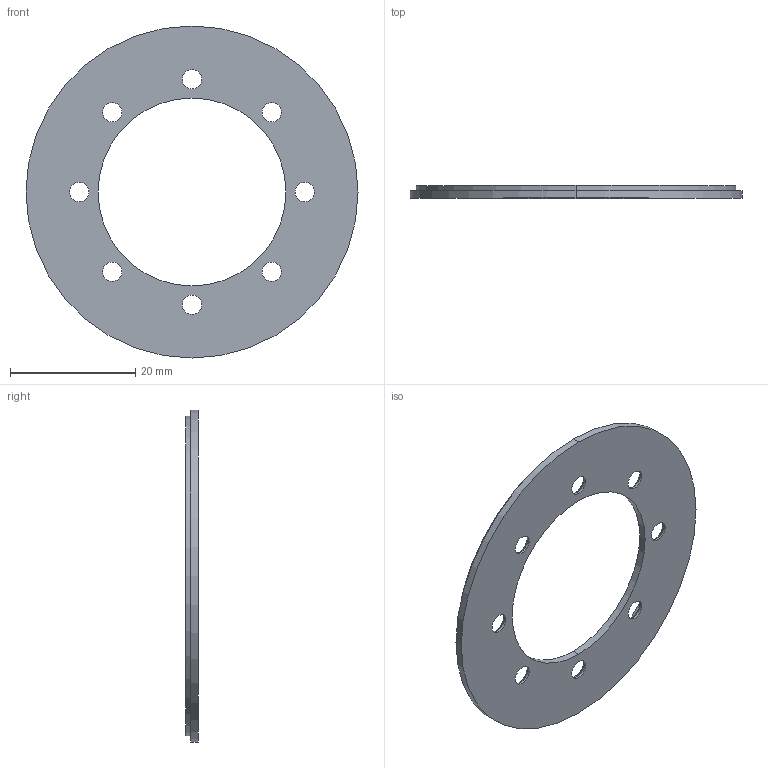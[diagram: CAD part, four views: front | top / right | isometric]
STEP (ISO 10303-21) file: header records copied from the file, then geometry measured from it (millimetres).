
FILE_DESCRIPTION (( 'STEP AP214' ), '1' );
FILE_NAME ('MRA053BC030DSE00.STEP', '2019-07-05T12:19:28', ( '' ), ( '' ), 'SwSTEP 2.0', 'SolidWorks 2016', '' );
FILE_SCHEMA (( 'AUTOMOTIVE_DESIGN' ));
Length unit declared in the file: millimetre
Products named in the file (3): Prirobnica OD54_ID30x1,2_Grezenje; Elastoferrite OD52_ID42x0,8; MRA053BC030DSE00
Assembly tree (2 placements, depth 2):
  MRA053BC030DSE00
    Prirobnica OD54_ID30x1,2_Grezenje
    Elastoferrite OD52_ID42x0,8
Bounding box: 53 x 2 x 53 mm (x, y, z)
Volume: 2219.3 mm3; surface area: 4802.4 mm2
Topology: 2 solids, 2 shells, 52 faces, 122 edges, 76 vertices
Faces by surface type: cylinder 24, cone 16, plane 12
Entity records: 1652 total; most frequent: DIRECTION 300, CARTESIAN_POINT 255, ORIENTED_EDGE 244, EDGE_CURVE 122, AXIS2_PLACEMENT_3D 121, VERTEX_POINT 76, EDGE_LOOP 74, CIRCLE 64
